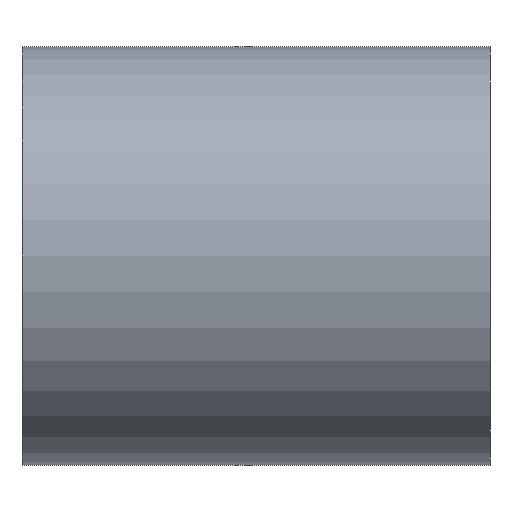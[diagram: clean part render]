
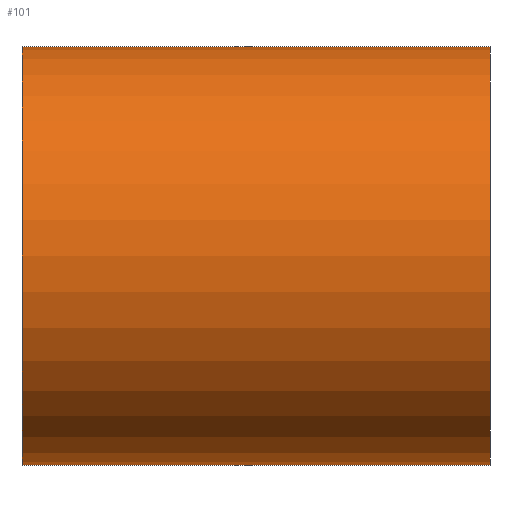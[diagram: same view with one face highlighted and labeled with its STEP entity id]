
A CAD part, front view. The second image highlights one B-rep face of the part: STEP entity #101.
In plain terms, the highlighted cylindrical face has radius 25.5 mm (diameter 51 mm), a full revolution.
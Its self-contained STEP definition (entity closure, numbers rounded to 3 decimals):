
#25=FACE_BOUND('',#48,.T.);
#33=FACE_OUTER_BOUND('',#47,.T.);
#47=EDGE_LOOP('',(#87));
#48=EDGE_LOOP('',(#88));
#57=CIRCLE('',#117,25.5);
#58=CIRCLE('',#119,25.5);
#65=VERTEX_POINT('',#174);
#66=VERTEX_POINT('',#177);
#73=EDGE_CURVE('',#65,#65,#57,.T.);
#74=EDGE_CURVE('',#66,#66,#58,.T.);
#87=ORIENTED_EDGE('',*,*,#73,.F.);
#88=ORIENTED_EDGE('',*,*,#74,.F.);
#94=CYLINDRICAL_SURFACE('',#118,25.5);
#101=ADVANCED_FACE('',(#33,#25),#94,.T.);
#117=AXIS2_PLACEMENT_3D('',#175,#147,#148);
#118=AXIS2_PLACEMENT_3D('',#176,#149,#150);
#119=AXIS2_PLACEMENT_3D('',#178,#151,#152);
#147=DIRECTION('center_axis',(-1.,0.,0.));
#148=DIRECTION('ref_axis',(0.,-1.,0.));
#149=DIRECTION('center_axis',(1.,0.,0.));
#150=DIRECTION('ref_axis',(0.,-1.,0.));
#151=DIRECTION('center_axis',(1.,0.,0.));
#152=DIRECTION('ref_axis',(0.,-1.,0.));
#174=CARTESIAN_POINT('',(-28.5,25.5,0.));
#175=CARTESIAN_POINT('Origin',(-28.5,0.,0.));
#176=CARTESIAN_POINT('Origin',(0.,0.,0.));
#177=CARTESIAN_POINT('',(28.5,25.5,0.));
#178=CARTESIAN_POINT('Origin',(28.5,0.,0.));
